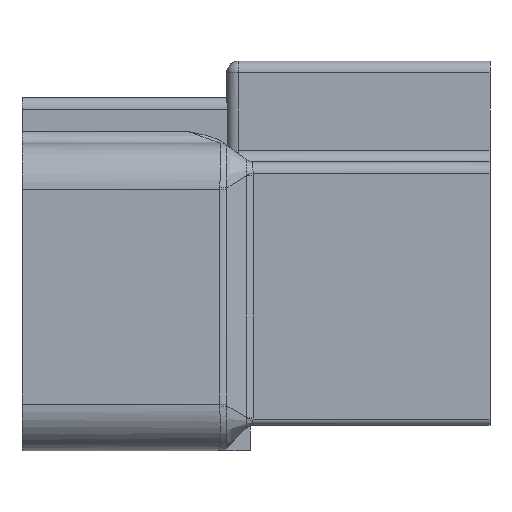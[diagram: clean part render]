
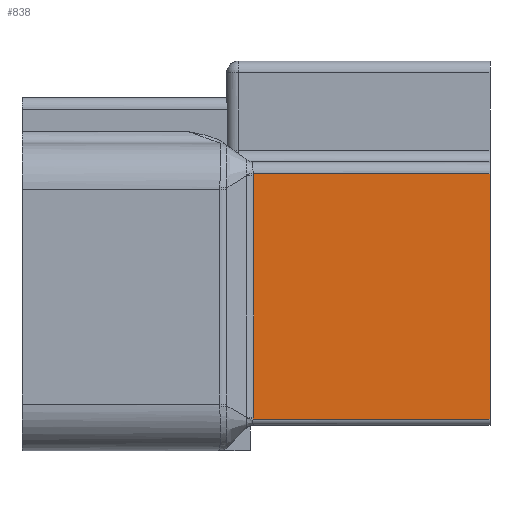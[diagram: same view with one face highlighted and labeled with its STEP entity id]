
A CAD part, front view. The second image highlights one B-rep face of the part: STEP entity #838.
In plain terms, the highlighted planar face has unit normal (0, -1, 0).
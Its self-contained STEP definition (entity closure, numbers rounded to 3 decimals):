
#756=CARTESIAN_POINT('Vertex',(22.,-3.6,-18.65)) ;
#759=CARTESIAN_POINT('Line Origine',(1.438,-3.6,-18.65)) ;
#763=CARTESIAN_POINT('Vertex',(1.778,-3.6,-18.65)) ;
#780=CARTESIAN_POINT('Axis2P3D Location',(1.438,-3.6,2.35)) ;
#785=CARTESIAN_POINT('Line Origine',(22.,-3.6,-8.15)) ;
#789=CARTESIAN_POINT('Vertex',(22.,-3.6,2.35)) ;
#792=CARTESIAN_POINT('Line Origine',(11.89,-3.6,2.35)) ;
#796=CARTESIAN_POINT('Vertex',(1.779,-3.6,2.35)) ;
#800=CARTESIAN_POINT('Control Point',(1.788,-3.6,2.176)) ;
#801=CARTESIAN_POINT('Control Point',(1.788,-3.6,2.212)) ;
#802=CARTESIAN_POINT('Control Point',(1.787,-3.6,2.247)) ;
#803=CARTESIAN_POINT('Control Point',(1.785,-3.6,2.282)) ;
#804=CARTESIAN_POINT('Control Point',(1.783,-3.6,2.316)) ;
#805=CARTESIAN_POINT('Control Point',(1.779,-3.6,2.35)) ;
#806=CARTESIAN_POINT('Vertex',(1.788,-3.6,2.176)) ;
#809=CARTESIAN_POINT('Line Origine',(1.788,-3.6,-8.156)) ;
#813=CARTESIAN_POINT('Vertex',(1.788,-3.6,-18.489)) ;
#817=CARTESIAN_POINT('Control Point',(1.778,-3.6,-18.65)) ;
#818=CARTESIAN_POINT('Control Point',(1.781,-3.6,-18.631)) ;
#819=CARTESIAN_POINT('Control Point',(1.783,-3.6,-18.611)) ;
#820=CARTESIAN_POINT('Control Point',(1.784,-3.6,-18.592)) ;
#821=CARTESIAN_POINT('Control Point',(1.786,-3.6,-18.562)) ;
#822=CARTESIAN_POINT('Control Point',(1.787,-3.6,-18.532)) ;
#823=CARTESIAN_POINT('Control Point',(1.787,-3.6,-18.522)) ;
#824=CARTESIAN_POINT('Control Point',(1.788,-3.6,-18.509)) ;
#825=CARTESIAN_POINT('Control Point',(1.788,-3.6,-18.496)) ;
#826=CARTESIAN_POINT('Control Point',(1.788,-3.6,-18.494)) ;
#827=CARTESIAN_POINT('Control Point',(1.788,-3.6,-18.491)) ;
#828=CARTESIAN_POINT('Control Point',(1.788,-3.6,-18.489)) ;
#760=DIRECTION('Vector Direction',(1.,0.,0.)) ;
#781=DIRECTION('Axis2P3D Direction',(0.,-1.,0.)) ;
#782=DIRECTION('Axis2P3D XDirection',(0.,0.,-1.)) ;
#786=DIRECTION('Vector Direction',(0.,0.,-1.)) ;
#793=DIRECTION('Vector Direction',(1.,0.,0.)) ;
#810=DIRECTION('Vector Direction',(0.,0.,-1.)) ;
#783=AXIS2_PLACEMENT_3D('Plane Axis2P3D',#780,#781,#782) ;
#831=ORIENTED_EDGE('',*,*,#765,.T.) ;
#832=ORIENTED_EDGE('',*,*,#791,.F.) ;
#833=ORIENTED_EDGE('',*,*,#798,.F.) ;
#834=ORIENTED_EDGE('',*,*,#808,.T.) ;
#835=ORIENTED_EDGE('',*,*,#815,.T.) ;
#836=ORIENTED_EDGE('',*,*,#829,.T.) ;
#761=VECTOR('Line Direction',#760,1.) ;
#787=VECTOR('Line Direction',#786,1.) ;
#794=VECTOR('Line Direction',#793,1.) ;
#811=VECTOR('Line Direction',#810,1.) ;
#838=ADVANCED_FACE('\X2\FF8AFF9FFF70FF82\X0\ \X2\FF8EFF9EFF83FF9EFF68FF70\X0\',(#837),#784,.T.) ;
#799=B_SPLINE_CURVE_WITH_KNOTS('',5,(#800,#801,#802,#803,#804,#805),.UNSPECIFIED.,.F.,.U.,(6,6),(5.36,5.713),.UNSPECIFIED.) ;
#816=B_SPLINE_CURVE_WITH_KNOTS('',5,(#817,#818,#819,#820,#821,#822,#823,#824,#825,#826,#827,#828),.UNSPECIFIED.,.F.,.U.,(6,3,3,6),(9.923,10.164,10.285,10.315),.UNSPECIFIED.) ;
#765=EDGE_CURVE('',#764,#757,#762,.T.) ;
#791=EDGE_CURVE('',#790,#757,#788,.T.) ;
#798=EDGE_CURVE('',#797,#790,#795,.T.) ;
#808=EDGE_CURVE('',#797,#807,#799,.F.) ;
#815=EDGE_CURVE('',#807,#814,#812,.T.) ;
#829=EDGE_CURVE('',#814,#764,#816,.F.) ;
#830=EDGE_LOOP('',(#831,#832,#833,#834,#835,#836)) ;
#837=FACE_OUTER_BOUND('',#830,.T.) ;
#762=LINE('Line',#759,#761) ;
#788=LINE('Line',#785,#787) ;
#795=LINE('Line',#792,#794) ;
#812=LINE('Line',#809,#811) ;
#784=PLANE('',#783) ;
#757=VERTEX_POINT('',#756) ;
#764=VERTEX_POINT('',#763) ;
#790=VERTEX_POINT('',#789) ;
#797=VERTEX_POINT('',#796) ;
#807=VERTEX_POINT('',#806) ;
#814=VERTEX_POINT('',#813) ;
